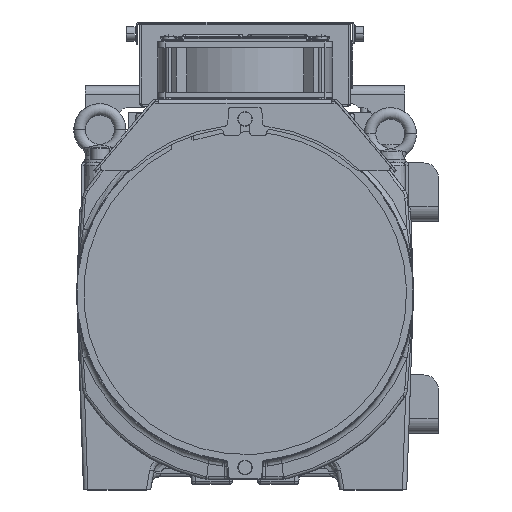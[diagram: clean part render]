
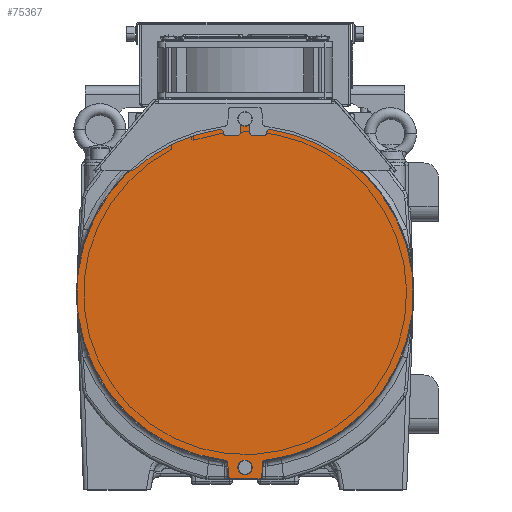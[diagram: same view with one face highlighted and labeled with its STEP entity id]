
A CAD part, top view. The second image highlights one B-rep face of the part: STEP entity #75367.
In plain terms, the highlighted planar face has unit normal (0, 0, 1).
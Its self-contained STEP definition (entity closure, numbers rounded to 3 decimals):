
#74950=CARTESIAN_POINT('',(-9.569,-125.8,234.5));
#74951=DIRECTION('',(0.,0.,1.));
#74952=DIRECTION('',(-0.999,-0.035,0.));
#74953=AXIS2_PLACEMENT_3D('',#74950,#74951,#74952);
#74955=DIRECTION('',(0.035,-0.999,0.));
#74956=VECTOR('',#74955,8.864);
#74957=CARTESIAN_POINT('',(-11.877,-117.011,234.5));
#74958=LINE('',#74957,#74956);
#74959=DIRECTION('',(-0.035,0.999,0.));
#74960=VECTOR('',#74959,14.462);
#74961=CARTESIAN_POINT('',(-114.995,-14.453,234.5));
#74962=LINE('',#74961,#74960);
#74963=DIRECTION('',(0.035,0.999,0.));
#74964=VECTOR('',#74963,14.462);
#74965=CARTESIAN_POINT('',(-115.5,0.,234.5));
#74966=LINE('',#74965,#74964);
#74967=CARTESIAN_POINT('',(-13.876,117.081,234.5));
#74968=DIRECTION('',(0.,0.,1.));
#74969=DIRECTION('',(0.118,-0.993,0.));
#74970=AXIS2_PLACEMENT_3D('',#74967,#74968,#74969);
#74972=DIRECTION('',(-0.035,-0.999,0.));
#74973=VECTOR('',#74972,8.864);
#74974=CARTESIAN_POINT('',(-11.567,125.87,234.5));
#74975=LINE('',#74974,#74973);
#74976=CARTESIAN_POINT('',(-9.569,125.8,234.5));
#74977=DIRECTION('',(0.,0.,1.));
#74978=DIRECTION('',(0.,1.,0.));
#74979=AXIS2_PLACEMENT_3D('',#74976,#74977,#74978);
#74981=DIRECTION('',(-1.,0.,0.));
#74982=VECTOR('',#74981,19.137);
#74983=CARTESIAN_POINT('',(9.569,127.8,234.5));
#74984=LINE('',#74983,#74982);
#74985=CARTESIAN_POINT('',(9.569,125.8,234.5));
#74986=DIRECTION('',(0.,0.,1.));
#74987=DIRECTION('',(0.999,0.035,0.));
#74988=AXIS2_PLACEMENT_3D('',#74985,#74986,#74987);
#74990=DIRECTION('',(-0.035,0.999,0.));
#74991=VECTOR('',#74990,8.864);
#74992=CARTESIAN_POINT('',(11.877,117.011,234.5));
#74993=LINE('',#74992,#74991);
#74994=CARTESIAN_POINT('',(13.876,117.081,234.5));
#74995=DIRECTION('',(0.,0.,1.));
#74996=DIRECTION('',(-0.999,-0.035,0.));
#74997=AXIS2_PLACEMENT_3D('',#74994,#74995,#74996);
#74999=DIRECTION('',(-0.035,0.999,0.));
#75000=VECTOR('',#74999,14.462);
#75001=CARTESIAN_POINT('',(115.5,0.,234.5));
#75002=LINE('',#75001,#75000);
#75003=DIRECTION('',(0.035,0.999,0.));
#75004=VECTOR('',#75003,14.462);
#75005=CARTESIAN_POINT('',(114.995,-14.453,234.5));
#75006=LINE('',#75005,#75004);
#75007=DIRECTION('',(0.035,0.999,0.));
#75008=VECTOR('',#75007,8.864);
#75009=CARTESIAN_POINT('',(11.567,-125.87,234.5));
#75010=LINE('',#75009,#75008);
#75011=CARTESIAN_POINT('',(9.569,-125.8,234.5));
#75012=DIRECTION('',(0.,0.,1.));
#75013=DIRECTION('',(0.,-1.,0.));
#75014=AXIS2_PLACEMENT_3D('',#75011,#75012,#75013);
#75016=DIRECTION('',(1.,0.,0.));
#75017=VECTOR('',#75016,19.137);
#75018=CARTESIAN_POINT('',(-9.569,-127.8,234.5));
#75019=LINE('',#75018,#75017);
#75037=CARTESIAN_POINT('',(-13.876,-117.081,234.5));
#75038=DIRECTION('',(0.,0.,-1.));
#75039=DIRECTION('',(0.118,0.993,0.));
#75040=AXIS2_PLACEMENT_3D('',#75037,#75038,#75039);
#75056=CARTESIAN_POINT('',(0.,0.,234.5));
#75057=DIRECTION('',(0.,0.,1.));
#75058=DIRECTION('',(0.992,0.125,0.));
#75059=AXIS2_PLACEMENT_3D('',#75056,#75057,#75058);
#75074=CARTESIAN_POINT('',(0.,0.,234.5));
#75075=DIRECTION('',(0.,0.,1.));
#75076=DIRECTION('',(0.118,-0.993,0.));
#75077=AXIS2_PLACEMENT_3D('',#75074,#75075,#75076);
#75083=CARTESIAN_POINT('',(0.,0.,234.5));
#75084=DIRECTION('',(0.,0.,1.));
#75085=DIRECTION('',(-0.118,0.993,0.));
#75086=AXIS2_PLACEMENT_3D('',#75083,#75084,#75085);
#75101=CARTESIAN_POINT('',(0.,0.,234.5));
#75102=DIRECTION('',(0.,0.,1.));
#75103=DIRECTION('',(-0.992,-0.125,0.));
#75104=AXIS2_PLACEMENT_3D('',#75101,#75102,#75103);
#75136=CARTESIAN_POINT('',(13.876,-117.081,234.5));
#75137=DIRECTION('',(0.,0.,-1.));
#75138=DIRECTION('',(-0.999,0.035,0.));
#75139=AXIS2_PLACEMENT_3D('',#75136,#75137,#75138);
#75229=CARTESIAN_POINT('',(-13.64,115.095,234.5));
#75231=VERTEX_POINT('',#75229);
#75233=CARTESIAN_POINT('',(-11.877,117.011,234.5));
#75235=VERTEX_POINT('',#75233);
#75236=CARTESIAN_POINT('',(13.64,115.095,234.5));
#75238=VERTEX_POINT('',#75236);
#75240=CARTESIAN_POINT('',(11.877,117.011,234.5));
#75242=VERTEX_POINT('',#75240);
#75245=CARTESIAN_POINT('',(13.64,-115.095,234.5));
#75247=VERTEX_POINT('',#75245);
#75249=CARTESIAN_POINT('',(11.877,-117.011,234.5));
#75251=VERTEX_POINT('',#75249);
#75252=CARTESIAN_POINT('',(-13.64,-115.095,234.5));
#75254=VERTEX_POINT('',#75252);
#75256=CARTESIAN_POINT('',(-11.877,-117.011,234.5));
#75258=VERTEX_POINT('',#75256);
#75264=CARTESIAN_POINT('',(114.995,-14.453,234.5));
#75265=VERTEX_POINT('',#75264);
#75266=CARTESIAN_POINT('',(114.995,14.453,234.5));
#75267=VERTEX_POINT('',#75266);
#75268=CARTESIAN_POINT('',(-114.995,14.453,234.5));
#75269=VERTEX_POINT('',#75268);
#75270=CARTESIAN_POINT('',(-114.995,-14.453,234.5));
#75271=VERTEX_POINT('',#75270);
#75280=CARTESIAN_POINT('',(-11.567,-125.87,234.5));
#75281=VERTEX_POINT('',#75280);
#75282=CARTESIAN_POINT('',(-9.569,-127.8,234.5));
#75283=VERTEX_POINT('',#75282);
#75288=CARTESIAN_POINT('',(9.569,-127.8,234.5));
#75289=VERTEX_POINT('',#75288);
#75290=CARTESIAN_POINT('',(11.567,-125.87,234.5));
#75291=VERTEX_POINT('',#75290);
#75296=CARTESIAN_POINT('',(-9.569,127.8,234.5));
#75297=VERTEX_POINT('',#75296);
#75298=CARTESIAN_POINT('',(-11.567,125.87,234.5));
#75299=VERTEX_POINT('',#75298);
#75304=CARTESIAN_POINT('',(11.567,125.87,234.5));
#75305=VERTEX_POINT('',#75304);
#75306=CARTESIAN_POINT('',(9.569,127.8,234.5));
#75307=VERTEX_POINT('',#75306);
#75310=CARTESIAN_POINT('',(115.5,0.,234.5));
#75311=VERTEX_POINT('',#75310);
#75314=CARTESIAN_POINT('',(-115.5,0.,234.5));
#75315=VERTEX_POINT('',#75314);
#75316=CARTESIAN_POINT('',(0.,0.,234.5));
#75317=DIRECTION('',(0.,0.,1.));
#75318=DIRECTION('',(1.,0.,0.));
#75319=AXIS2_PLACEMENT_3D('',#75316,#75317,#75318);
#75320=PLANE('',#75319);
#75322=ORIENTED_EDGE('',*,*,#75321,.F.);
#75324=ORIENTED_EDGE('',*,*,#75323,.F.);
#75326=ORIENTED_EDGE('',*,*,#75325,.F.);
#75328=ORIENTED_EDGE('',*,*,#75327,.F.);
#75330=ORIENTED_EDGE('',*,*,#75329,.T.);
#75332=ORIENTED_EDGE('',*,*,#75331,.T.);
#75334=ORIENTED_EDGE('',*,*,#75333,.F.);
#75336=ORIENTED_EDGE('',*,*,#75335,.T.);
#75338=ORIENTED_EDGE('',*,*,#75337,.F.);
#75340=ORIENTED_EDGE('',*,*,#75339,.F.);
#75342=ORIENTED_EDGE('',*,*,#75341,.F.);
#75344=ORIENTED_EDGE('',*,*,#75343,.F.);
#75346=ORIENTED_EDGE('',*,*,#75345,.F.);
#75348=ORIENTED_EDGE('',*,*,#75347,.T.);
#75350=ORIENTED_EDGE('',*,*,#75349,.F.);
#75352=ORIENTED_EDGE('',*,*,#75351,.F.);
#75354=ORIENTED_EDGE('',*,*,#75353,.F.);
#75356=ORIENTED_EDGE('',*,*,#75355,.F.);
#75358=ORIENTED_EDGE('',*,*,#75357,.F.);
#75360=ORIENTED_EDGE('',*,*,#75359,.F.);
#75362=ORIENTED_EDGE('',*,*,#75361,.F.);
#75364=ORIENTED_EDGE('',*,*,#75363,.F.);
#75365=EDGE_LOOP('',(#75322,#75324,#75326,#75328,#75330,#75332,#75334,#75336,
#75338,#75340,#75342,#75344,#75346,#75348,#75350,#75352,#75354,#75356,#75358,
#75360,#75362,#75364));
#75366=FACE_OUTER_BOUND('',#75365,.F.);
#75367=ADVANCED_FACE('',(#75366),#75320,.T.);
#74954=CIRCLE('',#74953,2.);
#74971=CIRCLE('',#74970,2.);
#74980=CIRCLE('',#74979,2.);
#74989=CIRCLE('',#74988,2.);
#74998=CIRCLE('',#74997,2.);
#75015=CIRCLE('',#75014,2.);
#75041=CIRCLE('',#75040,2.);
#75060=CIRCLE('',#75059,115.9);
#75078=CIRCLE('',#75077,115.9);
#75087=CIRCLE('',#75086,115.9);
#75105=CIRCLE('',#75104,115.9);
#75140=CIRCLE('',#75139,2.);
#75321=EDGE_CURVE('',#75281,#75283,#74954,.T.);
#75323=EDGE_CURVE('',#75258,#75281,#74958,.T.);
#75325=EDGE_CURVE('',#75254,#75258,#75041,.T.);
#75327=EDGE_CURVE('',#75271,#75254,#75105,.T.);
#75329=EDGE_CURVE('',#75271,#75315,#74962,.T.);
#75331=EDGE_CURVE('',#75315,#75269,#74966,.T.);
#75333=EDGE_CURVE('',#75231,#75269,#75087,.T.);
#75335=EDGE_CURVE('',#75231,#75235,#74971,.T.);
#75337=EDGE_CURVE('',#75299,#75235,#74975,.T.);
#75339=EDGE_CURVE('',#75297,#75299,#74980,.T.);
#75341=EDGE_CURVE('',#75307,#75297,#74984,.T.);
#75343=EDGE_CURVE('',#75305,#75307,#74989,.T.);
#75345=EDGE_CURVE('',#75242,#75305,#74993,.T.);
#75347=EDGE_CURVE('',#75242,#75238,#74998,.T.);
#75349=EDGE_CURVE('',#75267,#75238,#75060,.T.);
#75351=EDGE_CURVE('',#75311,#75267,#75002,.T.);
#75353=EDGE_CURVE('',#75265,#75311,#75006,.T.);
#75355=EDGE_CURVE('',#75247,#75265,#75078,.T.);
#75357=EDGE_CURVE('',#75251,#75247,#75140,.T.);
#75359=EDGE_CURVE('',#75291,#75251,#75010,.T.);
#75361=EDGE_CURVE('',#75289,#75291,#75015,.T.);
#75363=EDGE_CURVE('',#75283,#75289,#75019,.T.);
